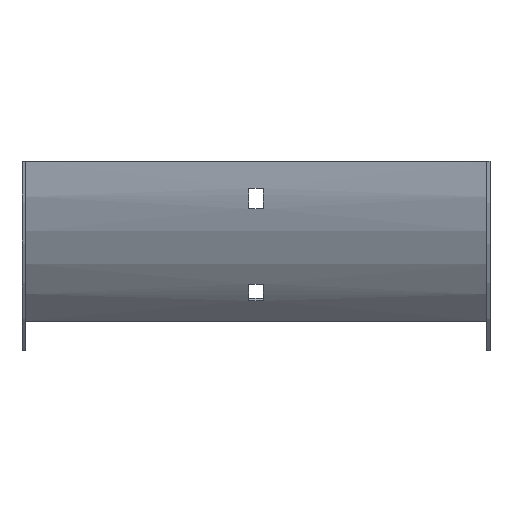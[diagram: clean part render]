
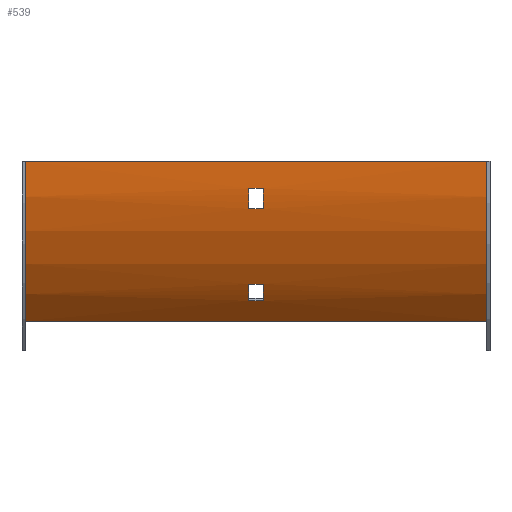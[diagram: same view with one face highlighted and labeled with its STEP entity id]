
A CAD part, front view. The second image highlights one B-rep face of the part: STEP entity #539.
In plain terms, the highlighted cylindrical face has radius 100 mm (diameter 200 mm), a partial arc.
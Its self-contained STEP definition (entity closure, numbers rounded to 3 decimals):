
#2 = AXIS2_PLACEMENT_3D ( 'NONE', #208, #579, #160 ) ;
#3 = CARTESIAN_POINT ( 'NONE',  ( -3.25, 0.73, -21. ) ) ;
#8 = CARTESIAN_POINT ( 'NONE',  ( 102., 27.789, -70.711 ) ) ;
#9 = ORIENTED_EDGE ( 'NONE', *, *, #303, .F. ) ;
#12 = EDGE_CURVE ( 'NONE', #252, #278, #258, .T. ) ;
#16 = EDGE_CURVE ( 'NONE', #561, #181, #50, .T. ) ;
#17 = FACE_BOUND ( 'NONE', #486, .T. ) ;
#19 = EDGE_LOOP ( 'NONE', ( #172, #153, #127, #390 ) ) ;
#21 = DIRECTION ( 'NONE',  ( -1., 0., 0. ) ) ;
#26 = VECTOR ( 'NONE', #21, 1000. ) ;
#46 = CIRCLE ( 'NONE', #409, 100. ) ;
#47 = VERTEX_POINT ( 'NONE', #170 ) ;
#50 = LINE ( 'NONE', #99, #112 ) ;
#51 = CARTESIAN_POINT ( 'NONE',  ( 102., 27.789, -70.711 ) ) ;
#56 = DIRECTION ( 'NONE',  ( 0., 0., 1. ) ) ;
#61 = CARTESIAN_POINT ( 'NONE',  ( 102., -1.5, 0. ) ) ;
#63 = EDGE_CURVE ( 'NONE', #199, #439, #46, .T. ) ;
#64 = AXIS2_PLACEMENT_3D ( 'NONE', #434, #382, #56 ) ;
#73 = ORIENTED_EDGE ( 'NONE', *, *, #528, .F. ) ;
#75 = CIRCLE ( 'NONE', #566, 100. ) ;
#82 = LINE ( 'NONE', #284, #182 ) ;
#96 = VERTEX_POINT ( 'NONE', #447 ) ;
#99 = CARTESIAN_POINT ( 'NONE',  ( 102., -1.5, 0. ) ) ;
#104 = VECTOR ( 'NONE', #438, 1000. ) ;
#105 = DIRECTION ( 'NONE',  ( 0., 0., 1. ) ) ;
#109 = ORIENTED_EDGE ( 'NONE', *, *, #63, .F. ) ;
#112 = VECTOR ( 'NONE', #243, 1000. ) ;
#127 = ORIENTED_EDGE ( 'NONE', *, *, #173, .T. ) ;
#133 = CARTESIAN_POINT ( 'NONE',  ( 103.5, -0.777, -12. ) ) ;
#146 = CARTESIAN_POINT ( 'NONE',  ( -3.25, 98.5, 0. ) ) ;
#153 = ORIENTED_EDGE ( 'NONE', *, *, #371, .F. ) ;
#155 = CIRCLE ( 'NONE', #2, 100. ) ;
#159 = ORIENTED_EDGE ( 'NONE', *, *, #12, .T. ) ;
#160 = DIRECTION ( 'NONE',  ( 0., 0., -1. ) ) ;
#170 = CARTESIAN_POINT ( 'NONE',  ( -3.25, 14.517, -54.285 ) ) ;
#172 = ORIENTED_EDGE ( 'NONE', *, *, #414, .F. ) ;
#173 = EDGE_CURVE ( 'NONE', #274, #561, #460, .T. ) ;
#177 = DIRECTION ( 'NONE',  ( -1., 0., 0. ) ) ;
#181 = VERTEX_POINT ( 'NONE', #590 ) ;
#182 = VECTOR ( 'NONE', #286, 1000. ) ;
#186 = DIRECTION ( 'NONE',  ( -1., 0., 0. ) ) ;
#191 = VECTOR ( 'NONE', #177, 1000. ) ;
#194 = DIRECTION ( 'NONE',  ( 0., 0., 1. ) ) ;
#199 = VERTEX_POINT ( 'NONE', #507 ) ;
#208 = CARTESIAN_POINT ( 'NONE',  ( -3.25, 98.5, 0. ) ) ;
#210 = EDGE_CURVE ( 'NONE', #47, #252, #82, .T. ) ;
#211 = EDGE_LOOP ( 'NONE', ( #312, #417, #266, #159 ) ) ;
#215 = VERTEX_POINT ( 'NONE', #372 ) ;
#219 = CYLINDRICAL_SURFACE ( 'NONE', #504, 100. ) ;
#238 = EDGE_CURVE ( 'NONE', #439, #96, #547, .T. ) ;
#243 = DIRECTION ( 'NONE',  ( -1., 0., 0. ) ) ;
#250 = CARTESIAN_POINT ( 'NONE',  ( 3.25, 19.815, -61.714 ) ) ;
#252 = VERTEX_POINT ( 'NONE', #544 ) ;
#258 = CIRCLE ( 'NONE', #64, 100. ) ;
#265 = CARTESIAN_POINT ( 'NONE',  ( 3.25, -0.777, -12. ) ) ;
#266 = ORIENTED_EDGE ( 'NONE', *, *, #210, .T. ) ;
#267 = CARTESIAN_POINT ( 'NONE',  ( 103.5, 19.815, -61.714 ) ) ;
#273 = DIRECTION ( 'NONE',  ( 0., 0., -1. ) ) ;
#274 = VERTEX_POINT ( 'NONE', #8 ) ;
#278 = VERTEX_POINT ( 'NONE', #250 ) ;
#284 = CARTESIAN_POINT ( 'NONE',  ( 103.5, 14.517, -54.285 ) ) ;
#286 = DIRECTION ( 'NONE',  ( 1., 0., 0. ) ) ;
#287 = AXIS2_PLACEMENT_3D ( 'NONE', #418, #324, #501 ) ;
#289 = VECTOR ( 'NONE', #305, 1000. ) ;
#291 = DIRECTION ( 'NONE',  ( 1., 0., 0. ) ) ;
#303 = EDGE_CURVE ( 'NONE', #96, #392, #75, .T. ) ;
#305 = DIRECTION ( 'NONE',  ( 1., 0., 0. ) ) ;
#308 = LINE ( 'NONE', #526, #289 ) ;
#312 = ORIENTED_EDGE ( 'NONE', *, *, #425, .T. ) ;
#324 = DIRECTION ( 'NONE',  ( -1., 0., 0. ) ) ;
#327 = CARTESIAN_POINT ( 'NONE',  ( -3.25, 19.815, -61.714 ) ) ;
#347 = CARTESIAN_POINT ( 'NONE',  ( 103.5, 98.5, 0. ) ) ;
#359 = ORIENTED_EDGE ( 'NONE', *, *, #238, .F. ) ;
#360 = FACE_BOUND ( 'NONE', #211, .T. ) ;
#371 = EDGE_CURVE ( 'NONE', #274, #215, #520, .T. ) ;
#372 = CARTESIAN_POINT ( 'NONE',  ( -102., 27.789, -70.711 ) ) ;
#382 = DIRECTION ( 'NONE',  ( 1., 0., 0. ) ) ;
#390 = ORIENTED_EDGE ( 'NONE', *, *, #16, .T. ) ;
#392 = VERTEX_POINT ( 'NONE', #3 ) ;
#404 = DIRECTION ( 'NONE',  ( -1., 0., 0. ) ) ;
#409 = AXIS2_PLACEMENT_3D ( 'NONE', #588, #586, #273 ) ;
#414 = EDGE_CURVE ( 'NONE', #215, #181, #454, .T. ) ;
#417 = ORIENTED_EDGE ( 'NONE', *, *, #509, .T. ) ;
#418 = CARTESIAN_POINT ( 'NONE',  ( 102., 98.5, 0. ) ) ;
#424 = CARTESIAN_POINT ( 'NONE',  ( -102., 98.5, 0. ) ) ;
#425 = EDGE_CURVE ( 'NONE', #278, #599, #441, .T. ) ;
#429 = AXIS2_PLACEMENT_3D ( 'NONE', #424, #186, #194 ) ;
#434 = CARTESIAN_POINT ( 'NONE',  ( 3.25, 98.5, 0. ) ) ;
#438 = DIRECTION ( 'NONE',  ( -1., 0., 0. ) ) ;
#439 = VERTEX_POINT ( 'NONE', #265 ) ;
#441 = LINE ( 'NONE', #267, #26 ) ;
#447 = CARTESIAN_POINT ( 'NONE',  ( -3.25, -0.777, -12. ) ) ;
#454 = CIRCLE ( 'NONE', #429, 100. ) ;
#460 = CIRCLE ( 'NONE', #287, 100. ) ;
#486 = EDGE_LOOP ( 'NONE', ( #9, #359, #109, #73 ) ) ;
#487 = FACE_OUTER_BOUND ( 'NONE', #19, .T. ) ;
#501 = DIRECTION ( 'NONE',  ( 0., 0., 1. ) ) ;
#504 = AXIS2_PLACEMENT_3D ( 'NONE', #347, #404, #533 ) ;
#507 = CARTESIAN_POINT ( 'NONE',  ( 3.25, 0.73, -21. ) ) ;
#509 = EDGE_CURVE ( 'NONE', #599, #47, #155, .T. ) ;
#520 = LINE ( 'NONE', #51, #104 ) ;
#526 = CARTESIAN_POINT ( 'NONE',  ( 103.5, 0.73, -21. ) ) ;
#528 = EDGE_CURVE ( 'NONE', #392, #199, #308, .T. ) ;
#533 = DIRECTION ( 'NONE',  ( 0., 0., 1. ) ) ;
#539 = ADVANCED_FACE ( 'NONE', ( #17, #487, #360 ), #219, .T. ) ;
#544 = CARTESIAN_POINT ( 'NONE',  ( 3.25, 14.517, -54.285 ) ) ;
#547 = LINE ( 'NONE', #133, #191 ) ;
#561 = VERTEX_POINT ( 'NONE', #61 ) ;
#566 = AXIS2_PLACEMENT_3D ( 'NONE', #146, #291, #105 ) ;
#579 = DIRECTION ( 'NONE',  ( -1., 0., 0. ) ) ;
#586 = DIRECTION ( 'NONE',  ( -1., 0., 0. ) ) ;
#588 = CARTESIAN_POINT ( 'NONE',  ( 3.25, 98.5, 0. ) ) ;
#590 = CARTESIAN_POINT ( 'NONE',  ( -102., -1.5, 0. ) ) ;
#599 = VERTEX_POINT ( 'NONE', #327 ) ;
